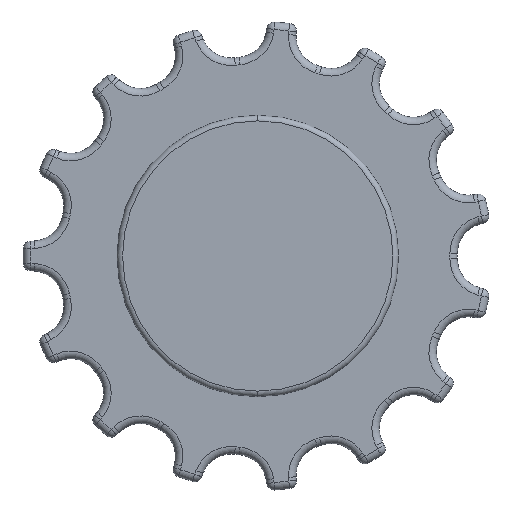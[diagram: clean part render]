
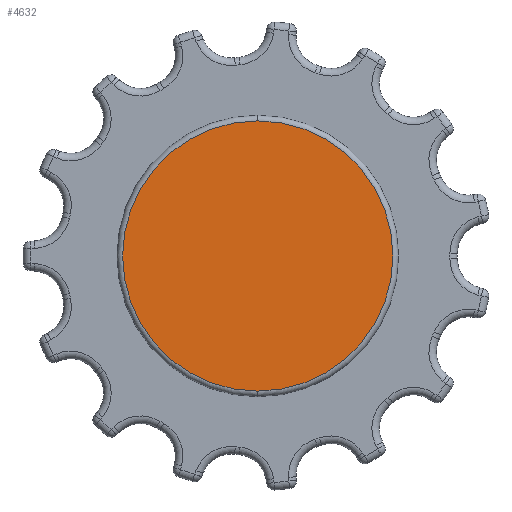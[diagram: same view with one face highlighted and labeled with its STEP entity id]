
A CAD part, left-side view. The second image highlights one B-rep face of the part: STEP entity #4632.
In plain terms, the highlighted planar face has unit normal (-1, 0, 0).
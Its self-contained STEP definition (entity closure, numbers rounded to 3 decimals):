
#1=CARTESIAN_POINT('',(-21.15,0.,0.));
#2=DIRECTION('',(-1.,0.,0.));
#3=DIRECTION('',(0.,0.,-1.));
#4=AXIS2_PLACEMENT_3D('',#1,#2,#3);
#6=CARTESIAN_POINT('',(-21.15,0.,0.));
#7=DIRECTION('',(-1.,0.,0.));
#8=DIRECTION('',(0.,0.,1.));
#9=AXIS2_PLACEMENT_3D('',#6,#7,#8);
#4007=CARTESIAN_POINT('',(-21.15,0.,-72.));
#4008=CARTESIAN_POINT('',(-21.15,0.,72.));
#4009=VERTEX_POINT('',#4007);
#4010=VERTEX_POINT('',#4008);
#4621=CARTESIAN_POINT('',(-21.15,0.,0.));
#4622=DIRECTION('',(1.,0.,0.));
#4623=DIRECTION('',(0.,0.,-1.));
#4624=AXIS2_PLACEMENT_3D('',#4621,#4622,#4623);
#4625=PLANE('',#4624);
#4627=ORIENTED_EDGE('',*,*,#4626,.F.);
#4629=ORIENTED_EDGE('',*,*,#4628,.F.);
#4630=EDGE_LOOP('',(#4627,#4629));
#4631=FACE_OUTER_BOUND('',#4630,.F.);
#4632=ADVANCED_FACE('',(#4631),#4625,.F.);
#5=CIRCLE('',#4,72.);
#10=CIRCLE('',#9,72.);
#4626=EDGE_CURVE('',#4009,#4010,#5,.T.);
#4628=EDGE_CURVE('',#4010,#4009,#10,.T.);
